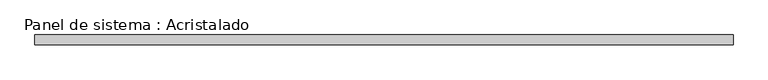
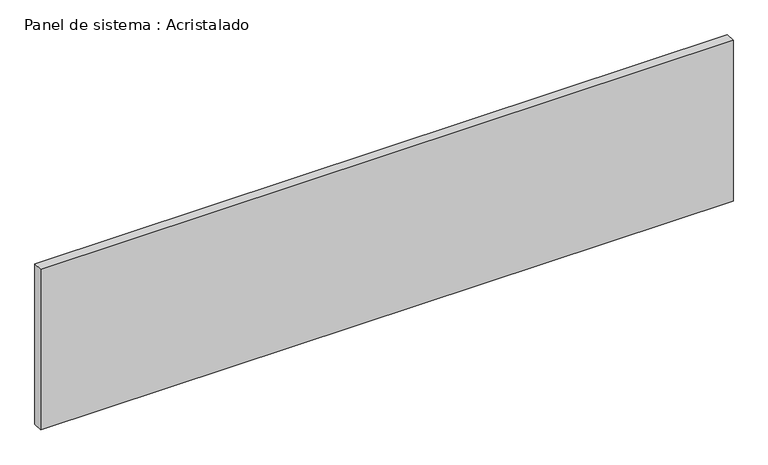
"""IFC4 building model written with IfcOpenShell, lengths in millimetres: plate geometry, Panel de sistema : Acristalado."""

import ifcopenshell
import ifcopenshell.guid

model = None  # the IFC model being written
_history = None  # IfcOwnerHistory: only IFC2X3 demands one
_inside = {}  # id of a spatial element -> (the spatial element, [elements in it])
_under = {}  # id of a project, library or spatial element -> (it, [spatial elements below it])
_declared = {}  # id of a project -> (the project, [libraries it declares])
_typed = {}  # id of a type object -> (the type object, [elements of that type])
_made_of = {}  # id of a material, layer set ... -> (it, [elements and type objects made of it])


def new_model(schema):
    """Start an empty IFC model of exactly this schema.

    Asked for "IFC4X3", IfcOpenShell would pick the latest addendum, in which some entities
    have other attributes; the version numbers below select the first issue.
    IFC2X3 requires an IfcOwnerHistory on every rooted entity: one is made here for all.
    """
    global model, _history
    if schema == "IFC4X3":
        model = ifcopenshell.file(schema_version=(4, 3, 0, 0))
    else:
        model = ifcopenshell.file(schema=schema)
    _inside.clear()
    _under.clear()
    _declared.clear()
    _typed.clear()
    _made_of.clear()
    _history = None
    if model.schema == "IFC2X3":
        org = make("IfcOrganization", Name="unknown")
        user = make(
            "IfcPersonAndOrganization",
            ThePerson=make("IfcPerson", FamilyName="unknown"),
            TheOrganization=org,
        )
        app = make(
            "IfcApplication",
            ApplicationDeveloper=org,
            Version="unknown",
            ApplicationFullName="unknown",
            ApplicationIdentifier="unknown",
        )
        _history = make(
            "IfcOwnerHistory",
            OwningUser=user,
            OwningApplication=app,
            ChangeAction="ADDED",
            CreationDate=0,
        )
    return model


def make(cls, **values):
    """One entity of the class cls with the attributes given. An attribute that is None is left unset."""
    return model.create_entity(
        cls, **{name: value for name, value in values.items() if value is not None}
    )


def rooted(cls, **values):
    """An entity with a GlobalId (a new one), such as an element, a storey or a relation."""
    return make(cls, GlobalId=ifcopenshell.guid.new(), OwnerHistory=_history, **values)


def si_unit(unit_type, name, prefix=None):
    """IfcSIUnit, for example si_unit("LENGTHUNIT", "METRE", prefix="MILLI")."""
    return make("IfcSIUnit", UnitType=unit_type, Prefix=prefix, Name=name)


def assignment(units):
    """IfcUnitAssignment: the units of a project."""
    return None if units is None else make("IfcUnitAssignment", Units=units)


def point(xyz):
    """IfcCartesianPoint."""
    return None if xyz is None else make("IfcCartesianPoint", Coordinates=xyz)


def direction(xyz):
    """IfcDirection."""
    return None if xyz is None else make("IfcDirection", DirectionRatios=xyz)


def frame(location, z_axis=None, x_axis=None):
    """IfcAxis2Placement3D, a coordinate frame: its origin and axes. An axis left out is left unset."""
    return make(
        "IfcAxis2Placement3D",
        Location=point(location),
        Axis=direction(z_axis),
        RefDirection=direction(x_axis),
    )


def origin():
    """The frame at (0, 0, 0) with its axes left unset."""
    return frame((0.0, 0.0, 0.0))


def origin_with_axes():
    """The frame at (0, 0, 0) with the z axis (0, 0, 1) and the x axis (1, 0, 0) written out."""
    return frame((0.0, 0.0, 0.0), z_axis=(0.0, 0.0, 1.0), x_axis=(1.0, 0.0, 0.0))


def place(relative_to, where):
    """IfcLocalPlacement: puts the frame where relative to a parent placement (None: the world)."""
    return make(
        "IfcLocalPlacement", PlacementRelTo=relative_to, RelativePlacement=where
    )


def context(
    kind, dimensions, precision=None, world=None, true_north=None, identifier=None
):
    """IfcGeometricRepresentationContext, for example the 3D "Model" context."""
    return make(
        "IfcGeometricRepresentationContext",
        ContextIdentifier=identifier,
        ContextType=kind,
        CoordinateSpaceDimension=dimensions,
        Precision=precision,
        WorldCoordinateSystem=world,
        TrueNorth=true_north,
    )


def project(units=None, contexts=None):
    """IfcProject with its units and contexts."""
    return rooted(
        "IfcProject",
        Name="project",
        RepresentationContexts=contexts,
        UnitsInContext=assignment(units),
    )


def spatial(cls, under=None, at=None, **own):
    """A site, building, storey or space (cls), placed at a placement, below another one or the project."""
    s = rooted(cls, ObjectPlacement=at, **own)
    if under is not None:
        _under.setdefault(under.id(), (under, []))[1].append(s)
    return s


def polyline(points):
    """IfcPolyline through the points."""
    return make("IfcPolyline", Points=[point(p) for p in points])


def outline(outer, holes=None, kind="AREA"):
    """IfcArbitraryClosedProfileDef: a profile drawn as a closed curve; with holes, ...WithVoids."""
    if holes is None:
        return make("IfcArbitraryClosedProfileDef", ProfileType=kind, OuterCurve=outer)
    return make(
        "IfcArbitraryProfileDefWithVoids",
        ProfileType=kind,
        OuterCurve=outer,
        InnerCurves=holes,
    )


def extrude(swept, where, along, depth):
    """IfcExtrudedAreaSolid: the profile swept, set in the frame where, extruded along a direction by depth."""
    return make(
        "IfcExtrudedAreaSolid",
        SweptArea=swept,
        Position=where,
        ExtrudedDirection=direction(along),
        Depth=depth,
    )


def shape(context_of_items, identifier, shape_type, items):
    """IfcShapeRepresentation: the items that make up one representation, for example the "Body"."""
    return make(
        "IfcShapeRepresentation",
        ContextOfItems=context_of_items,
        RepresentationIdentifier=identifier,
        RepresentationType=shape_type,
        Items=items,
    )


def source(mapping_origin, context_of_items, identifier, shape_type, items):
    """IfcRepresentationMap: a shape defined once, which mapped items show again and again."""
    return make(
        "IfcRepresentationMap",
        MappingOrigin=mapping_origin,
        MappedRepresentation=shape(context_of_items, identifier, shape_type, items),
    )


def transform(
    local_origin,
    x_axis=None,
    y_axis=None,
    z_axis=None,
    scale=None,
    scale2=None,
    scale3=None,
    uniform=True,
):
    """IfcCartesianTransformationOperator3D, or its non-uniform kind. x_axis, y_axis, z_axis: its Axis1, 2, 3."""
    if uniform:
        return make(
            "IfcCartesianTransformationOperator3D",
            Axis1=direction(x_axis),
            Axis2=direction(y_axis),
            LocalOrigin=point(local_origin),
            Scale=scale,
            Axis3=direction(z_axis),
        )
    return make(
        "IfcCartesianTransformationOperator3DnonUniform",
        Axis1=direction(x_axis),
        Axis2=direction(y_axis),
        LocalOrigin=point(local_origin),
        Scale=scale,
        Axis3=direction(z_axis),
        Scale2=scale2,
        Scale3=scale3,
    )


def mapped(mapping_source, mapping_target):
    """IfcMappedItem: shows the shape of a source again, moved by a transform."""
    return make(
        "IfcMappedItem", MappingSource=mapping_source, MappingTarget=mapping_target
    )


def made_of(thing, what):
    """Note that an element or type object is made of a material, layer set ...; save() writes the relation."""
    if what is not None:
        _made_of.setdefault(what.id(), (what, []))[1].append(thing)
    return thing


def element(
    cls,
    number,
    at=None,
    inside=None,
    cuts=None,
    type_object=None,
    material=None,
    context=None,
    identifier="Body",
    shape_type=None,
    held_by="IfcProductDefinitionShape",
    body=None,
    shapes=None,
    **own,
):
    """One element of the class cls, such as IfcWall. Its Tag is "e" and its number.

    at: its placement. inside: the storey or other place that contains it. cuts: it is an
    opening in that element (IfcRelVoidsElement). A single representation is given by context,
    identifier, shape_type and body (its items); several are given by shapes. held_by: the class
    of the entity that holds the representations. save() writes the other relations.
    """
    e = rooted(cls, Tag="e%d" % number, ObjectPlacement=at, **own)
    if body is not None:
        shapes = [shape(context, identifier, shape_type, body)]
    if shapes is not None:
        e.Representation = make(held_by, Representations=shapes)
    if inside is not None:
        _inside.setdefault(inside.id(), (inside, []))[1].append(e)
    if cuts is not None:
        rooted(
            "IfcRelVoidsElement", RelatingBuildingElement=cuts, RelatedOpeningElement=e
        )
    if type_object is not None:
        _typed.setdefault(type_object.id(), (type_object, []))[1].append(e)
    return made_of(e, material)


def aggregate(whole, parts):
    """IfcRelAggregates: a whole, such as a stair, and the parts it consists of."""
    return rooted("IfcRelAggregates", RelatingObject=whole, RelatedObjects=parts)


def save(model, path):
    """Write the relations noted so far, then the file.

    IfcRelAggregates (storeys below a building ...), IfcRelContainedInSpatialStructure (elements
    in a storey), IfcRelDefinesByType, IfcRelAssociatesMaterial and IfcRelDeclares: one each for
    every whole, place, type object, material and project.
    """
    for whole, parts in _under.values():
        aggregate(whole, parts)
    for where, things in _inside.values():
        rooted(
            "IfcRelContainedInSpatialStructure",
            RelatedElements=things,
            RelatingStructure=where,
        )
    for kind, things in _typed.values():
        rooted("IfcRelDefinesByType", RelatedObjects=things, RelatingType=kind)
    for what, things in _made_of.values():
        rooted("IfcRelAssociatesMaterial", RelatedObjects=things, RelatingMaterial=what)
    for by, libraries in _declared.values():
        rooted("IfcRelDeclares", RelatingContext=by, RelatedDefinitions=libraries)
    model.write(path)


def panel_de_sistema_acristalado_935807de(model_context):
    return source(origin(), model_context, "Body", "SweptSolid", [
        extrude(outline(polyline([(713.978793, -10.0), (-713.978793, -10.0), (-713.978793, 10.0), (713.978793, 10.0), (713.978793, -10.0)])), origin_with_axes(), (0.0, 0.0, 1.0), 350.0),
    ])


if __name__ == "__main__":
    model = new_model("IFC4")
    model_context = context("Model", 3, world=origin())
    ifc_project = project(units=[si_unit("LENGTHUNIT", "METRE", prefix="MILLI")], contexts=[model_context])
    site = spatial("IfcSite", under=ifc_project)
    building = spatial("IfcBuilding", under=site)
    placement = place(None, origin())
    panel_de_sistema_acristalado_shape = panel_de_sistema_acristalado_935807de(model_context)
    element("IfcPlate", 1, ObjectType="Panel de sistema : Acristalado", at=placement, inside=building, context=model_context, shape_type="MappedRepresentation", body=[
        mapped(panel_de_sistema_acristalado_shape, transform((0.0, 0.0, 0.0), x_axis=(1.0, 0.0, 0.0), y_axis=(0.0, 1.0, 0.0), z_axis=(0.0, 0.0, 1.0))),
    ])
    save(model, "model.ifc")
